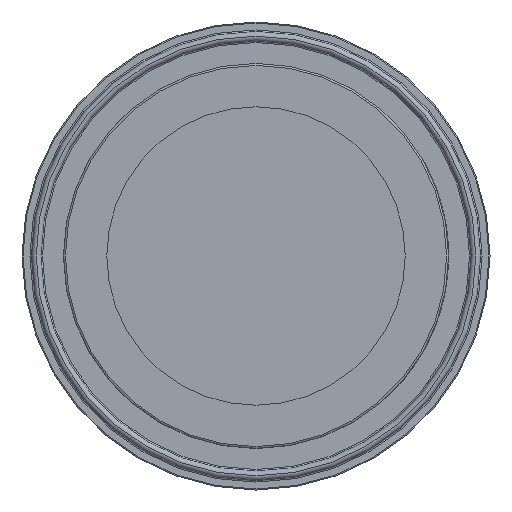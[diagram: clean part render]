
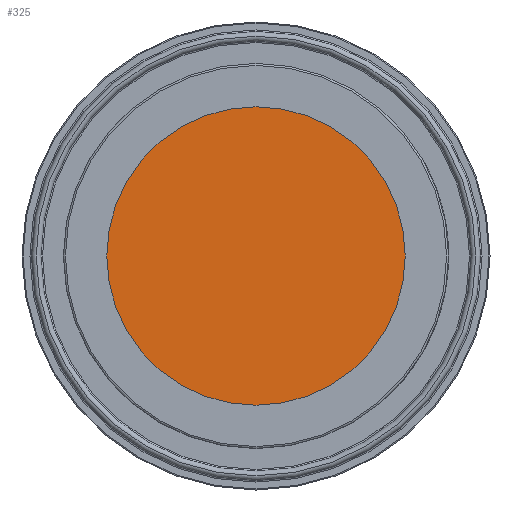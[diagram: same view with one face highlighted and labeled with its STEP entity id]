
A CAD part, left-side view. The second image highlights one B-rep face of the part: STEP entity #325.
In plain terms, the highlighted planar face has unit normal (-1, 0, 0).
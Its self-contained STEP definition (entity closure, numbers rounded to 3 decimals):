
#325 = ADVANCED_FACE( '', ( #851 ), #852, .T. );
#851 = FACE_OUTER_BOUND( '', #1632, .T. );
#852 = PLANE( '', #1633 );
#1632 = EDGE_LOOP( '', ( #3786 ) );
#1633 = AXIS2_PLACEMENT_3D( '', #3787, #3788, #3789 );
#3786 = ORIENTED_EDGE( '', *, *, #5449, .T. );
#3787 = CARTESIAN_POINT( '', ( 0., 0., 0. ) );
#3788 = DIRECTION( '', ( -1., 0., 0. ) );
#3789 = DIRECTION( '', ( 0., 0., 1. ) );
#5449 = EDGE_CURVE( '', #6438, #6438, #6439, .T. );
#6438 = VERTEX_POINT( '', #8458 );
#6439 = CIRCLE( '', #8459, 37.465 );
#8458 = CARTESIAN_POINT( '', ( 0., 0., 37.465 ) );
#8459 = AXIS2_PLACEMENT_3D( '', #9688, #9689, #9690 );
#9688 = CARTESIAN_POINT( '', ( 0., 0., 0. ) );
#9689 = DIRECTION( '', ( -1., 0., 0. ) );
#9690 = DIRECTION( '', ( 0., 0., 1. ) );
